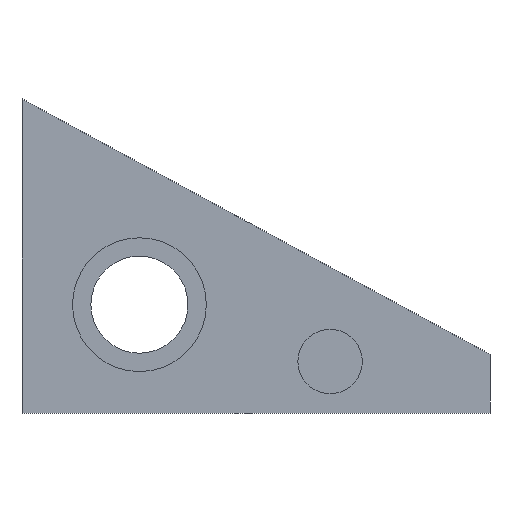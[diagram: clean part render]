
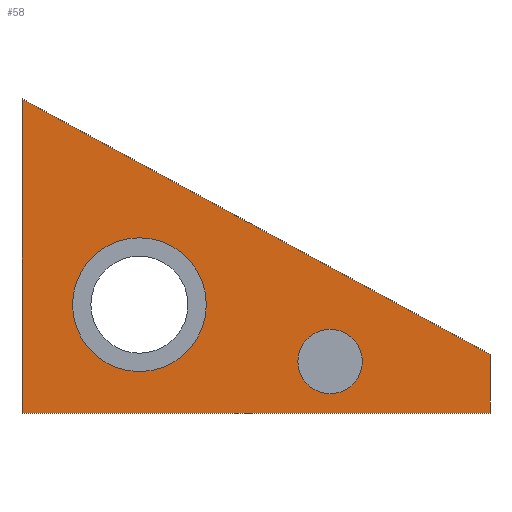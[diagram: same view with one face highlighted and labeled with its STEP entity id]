
A CAD part, top view. The second image highlights one B-rep face of the part: STEP entity #58.
In plain terms, the highlighted planar face has unit normal (0, 0, 1).
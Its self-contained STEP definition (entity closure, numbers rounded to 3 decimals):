
#58=ADVANCED_FACE('',(#157,#159,#161),#163,.T.);
#157=FACE_BOUND('',#158,.T.);
#158=EDGE_LOOP('',(#248,#249,#250,#251));
#159=FACE_BOUND('',#160,.T.);
#160=EDGE_LOOP('',(#252));
#161=FACE_BOUND('',#162,.T.);
#162=EDGE_LOOP('',(#253));
#163=PLANE('',#164);
#164=AXIS2_PLACEMENT_3D('',#165,#166,#167);
#165=CARTESIAN_POINT('',(0.,0.,0.8));
#166=DIRECTION('',(0.,0.,1.));
#167=DIRECTION('',(1.,0.,0.));
#248=ORIENTED_EDGE('',*,*,#284,.T.);
#249=ORIENTED_EDGE('',*,*,#285,.T.);
#250=ORIENTED_EDGE('',*,*,#286,.T.);
#251=ORIENTED_EDGE('',*,*,#287,.T.);
#252=ORIENTED_EDGE('',*,*,#288,.T.);
#253=ORIENTED_EDGE('',*,*,#289,.T.);
#284=EDGE_CURVE('',#302,#303,#304,.F.);
#285=EDGE_CURVE('',#303,#305,#306,.F.);
#286=EDGE_CURVE('',#305,#307,#308,.T.);
#287=EDGE_CURVE('',#307,#302,#309,.T.);
#288=EDGE_CURVE('',#310,#310,#311,.F.);
#289=EDGE_CURVE('',#312,#312,#313,.F.);
#302=VERTEX_POINT('',#334);
#303=VERTEX_POINT('',#335);
#304=LINE('',#336,#337);
#305=VERTEX_POINT('',#339);
#306=LINE('',#340,#341);
#307=VERTEX_POINT('',#343);
#308=LINE('',#344,#345);
#309=LINE('',#347,#348);
#310=VERTEX_POINT('',#350);
#311=CIRCLE('',#351,9.3);
#312=VERTEX_POINT('',#355);
#313=CIRCLE('',#356,19.3);
#334=CARTESIAN_POINT('',(-135.023,92.7,0.8));
#335=CARTESIAN_POINT('',(-135.023,2.,0.8));
#336=CARTESIAN_POINT('',(-135.023,2.,0.8));
#337=VECTOR('',#338,1.);
#338=DIRECTION('',(0.,1.,0.));
#339=CARTESIAN_POINT('',(0.,2.,0.8));
#340=CARTESIAN_POINT('',(0.,2.,0.8));
#341=VECTOR('',#342,1.);
#342=DIRECTION('',(-1.,0.,0.));
#343=CARTESIAN_POINT('',(0.,19.,0.8));
#344=CARTESIAN_POINT('',(0.,2.,0.8));
#345=VECTOR('',#346,1.);
#346=DIRECTION('',(0.,1.,0.));
#347=CARTESIAN_POINT('',(0.,19.,0.8));
#348=VECTOR('',#349,1.);
#349=DIRECTION('',(-0.878,0.479,0.));
#350=CARTESIAN_POINT('',(-36.833,16.903,0.8));
#351=AXIS2_PLACEMENT_3D('',#352,#353,#354);
#352=CARTESIAN_POINT('',(-46.133,16.903,0.8));
#353=DIRECTION('',(0.,0.,1.));
#354=DIRECTION('',(1.,0.,0.));
#355=CARTESIAN_POINT('',(-81.845,33.305,0.8));
#356=AXIS2_PLACEMENT_3D('',#357,#358,#359);
#357=CARTESIAN_POINT('',(-101.145,33.305,0.8));
#358=DIRECTION('',(0.,0.,1.));
#359=DIRECTION('',(1.,0.,0.));
